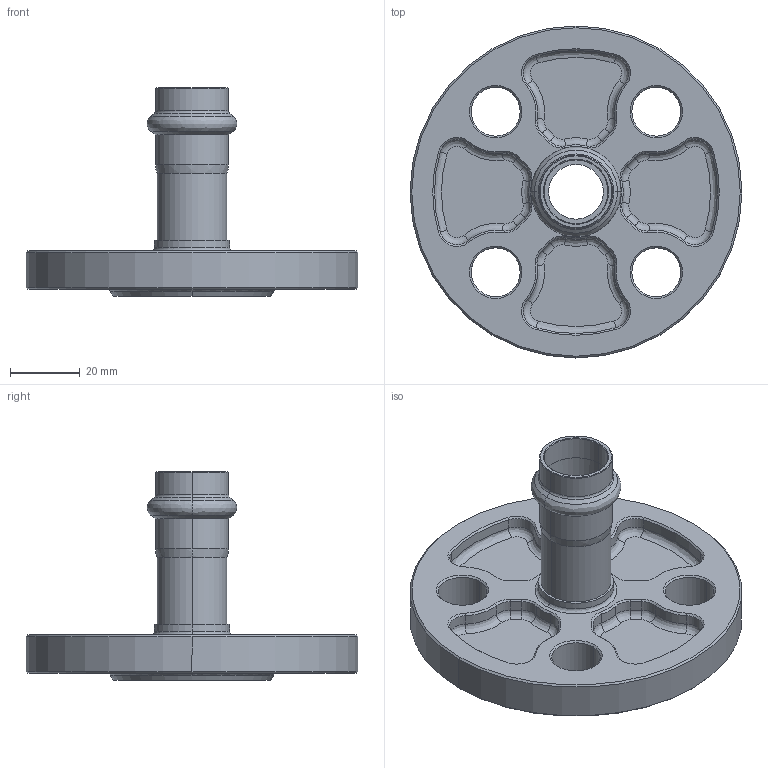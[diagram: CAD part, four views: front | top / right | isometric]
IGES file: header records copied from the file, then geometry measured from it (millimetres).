
Start section: Elysium IGES Interface
Global section: file name: C:\3d modellen sudo\S-Pr VP\SP6500V\6500VW18.igs; native system: CoCreate Modeling 17.00A  17-Jun-2010; preprocessor: CoCreate IGES_3D V2.2; author: Unknown; organization: Unknown; date: 20130129.101536; units: millimetre
Bounding box: 95 x 95 x 59.75 mm (x, y, z)
Volume: 62436.8 mm3; surface area: 25976 mm2
Topology: 1 solids, 1 shells, 259 faces, 578 edges, 336 vertices
Faces by surface type: bspline 259
